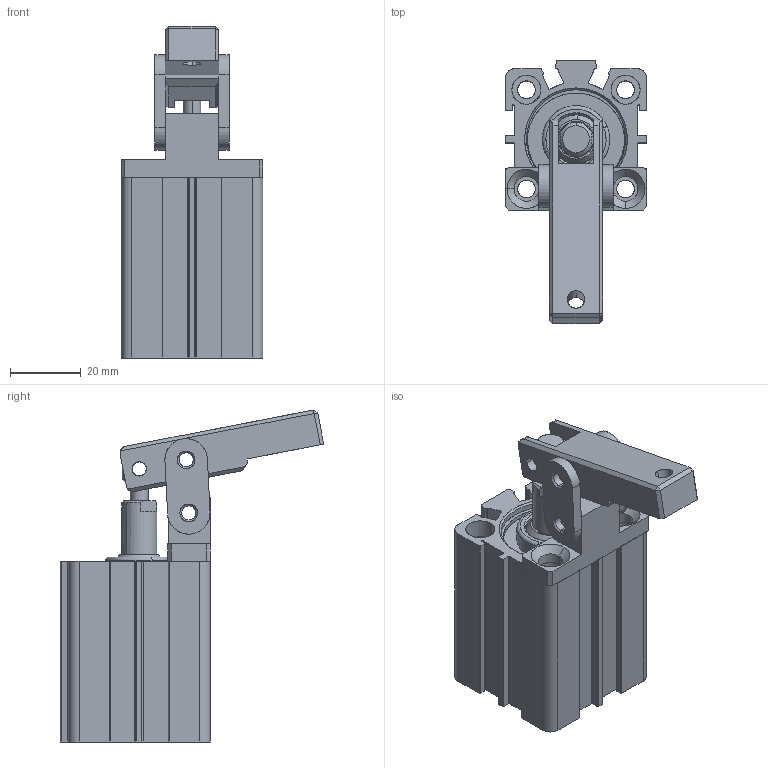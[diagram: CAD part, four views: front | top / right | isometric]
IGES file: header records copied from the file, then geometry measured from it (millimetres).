
Start section: SolidWorks IGES file using analytic representation for surfaces
Global section: file name: C:\Users\cagdas\Desktop\MSA_25.IGS; native system: SolidWorks 2018; preprocessor: SolidWorks 2018; author: cagdas; date: 181210.114200; units: millimetre
Bounding box: 40 x 74.41 x 93.77 mm (x, y, z)
Surface area: 41289.4 mm2 (no closed solid volume)
Topology: 0 solids, 0 shells, 558 faces, 8445 edges, 8443 vertices
Faces by surface type: revolution 369, bspline 189
